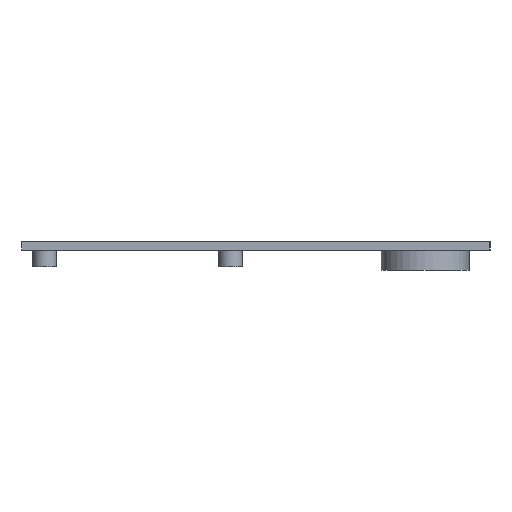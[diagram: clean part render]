
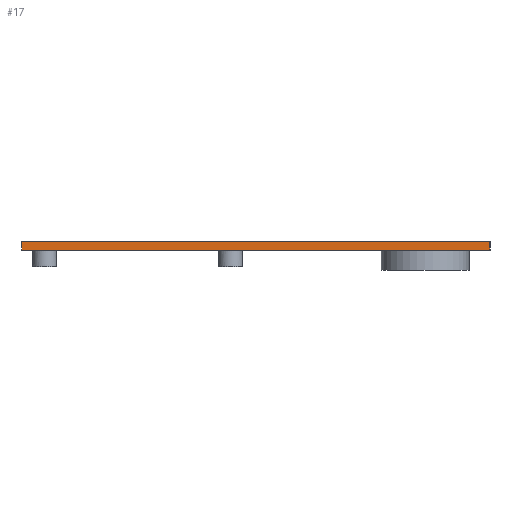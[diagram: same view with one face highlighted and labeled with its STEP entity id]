
A CAD part, left-side view. The second image highlights one B-rep face of the part: STEP entity #17.
In plain terms, the highlighted planar face has unit normal (-1, 0, 0).
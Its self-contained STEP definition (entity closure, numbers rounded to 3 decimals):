
#17 = ADVANCED_FACE('',(#18),#32,.F.);
#18 = FACE_BOUND('',#19,.F.);
#19 = EDGE_LOOP('',(#20,#55,#83,#111));
#20 = ORIENTED_EDGE('',*,*,#21,.F.);
#21 = EDGE_CURVE('',#22,#24,#26,.T.);
#22 = VERTEX_POINT('',#23);
#23 = CARTESIAN_POINT('',(0.8,0.8,67.5));
#24 = VERTEX_POINT('',#25);
#25 = CARTESIAN_POINT('',(0.8,0.8,70.));
#26 = SURFACE_CURVE('',#27,(#31,#43),.PCURVE_S1.);
#27 = LINE('',#28,#29);
#28 = CARTESIAN_POINT('',(0.8,0.8,67.5));
#29 = VECTOR('',#30,1.);
#30 = DIRECTION('',(0.,0.,1.));
#31 = PCURVE('',#32,#37);
#32 = PLANE('',#33);
#33 = AXIS2_PLACEMENT_3D('',#34,#35,#36);
#34 = CARTESIAN_POINT('',(0.8,0.8,67.5));
#35 = DIRECTION('',(1.,0.,-0.));
#36 = DIRECTION('',(0.,0.,1.));
#37 = DEFINITIONAL_REPRESENTATION('',(#38),#42);
#38 = LINE('',#39,#40);
#39 = CARTESIAN_POINT('',(0.,0.));
#40 = VECTOR('',#41,1.);
#41 = DIRECTION('',(1.,0.));
#42 = ( GEOMETRIC_REPRESENTATION_CONTEXT(2) 
PARAMETRIC_REPRESENTATION_CONTEXT() REPRESENTATION_CONTEXT('2D SPACE',''
  ) );
#43 = PCURVE('',#44,#49);
#44 = PLANE('',#45);
#45 = AXIS2_PLACEMENT_3D('',#46,#47,#48);
#46 = CARTESIAN_POINT('',(0.8,0.8,67.5));
#47 = DIRECTION('',(-0.,1.,0.));
#48 = DIRECTION('',(0.,0.,1.));
#49 = DEFINITIONAL_REPRESENTATION('',(#50),#54);
#50 = LINE('',#51,#52);
#51 = CARTESIAN_POINT('',(0.,0.));
#52 = VECTOR('',#53,1.);
#53 = DIRECTION('',(1.,0.));
#54 = ( GEOMETRIC_REPRESENTATION_CONTEXT(2) 
PARAMETRIC_REPRESENTATION_CONTEXT() REPRESENTATION_CONTEXT('2D SPACE',''
  ) );
#55 = ORIENTED_EDGE('',*,*,#56,.T.);
#56 = EDGE_CURVE('',#22,#57,#59,.T.);
#57 = VERTEX_POINT('',#58);
#58 = CARTESIAN_POINT('',(0.8,139.2,67.5));
#59 = SURFACE_CURVE('',#60,(#64,#71),.PCURVE_S1.);
#60 = LINE('',#61,#62);
#61 = CARTESIAN_POINT('',(0.8,0.8,67.5));
#62 = VECTOR('',#63,1.);
#63 = DIRECTION('',(-0.,1.,0.));
#64 = PCURVE('',#32,#65);
#65 = DEFINITIONAL_REPRESENTATION('',(#66),#70);
#66 = LINE('',#67,#68);
#67 = CARTESIAN_POINT('',(0.,0.));
#68 = VECTOR('',#69,1.);
#69 = DIRECTION('',(0.,-1.));
#70 = ( GEOMETRIC_REPRESENTATION_CONTEXT(2) 
PARAMETRIC_REPRESENTATION_CONTEXT() REPRESENTATION_CONTEXT('2D SPACE',''
  ) );
#71 = PCURVE('',#72,#77);
#72 = PLANE('',#73);
#73 = AXIS2_PLACEMENT_3D('',#74,#75,#76);
#74 = CARTESIAN_POINT('',(0.8,0.8,67.5));
#75 = DIRECTION('',(0.,0.,1.));
#76 = DIRECTION('',(1.,0.,-0.));
#77 = DEFINITIONAL_REPRESENTATION('',(#78),#82);
#78 = LINE('',#79,#80);
#79 = CARTESIAN_POINT('',(0.,0.));
#80 = VECTOR('',#81,1.);
#81 = DIRECTION('',(0.,1.));
#82 = ( GEOMETRIC_REPRESENTATION_CONTEXT(2) 
PARAMETRIC_REPRESENTATION_CONTEXT() REPRESENTATION_CONTEXT('2D SPACE',''
  ) );
#83 = ORIENTED_EDGE('',*,*,#84,.T.);
#84 = EDGE_CURVE('',#57,#85,#87,.T.);
#85 = VERTEX_POINT('',#86);
#86 = CARTESIAN_POINT('',(0.8,139.2,70.));
#87 = SURFACE_CURVE('',#88,(#92,#99),.PCURVE_S1.);
#88 = LINE('',#89,#90);
#89 = CARTESIAN_POINT('',(0.8,139.2,67.5));
#90 = VECTOR('',#91,1.);
#91 = DIRECTION('',(0.,0.,1.));
#92 = PCURVE('',#32,#93);
#93 = DEFINITIONAL_REPRESENTATION('',(#94),#98);
#94 = LINE('',#95,#96);
#95 = CARTESIAN_POINT('',(0.,-138.4));
#96 = VECTOR('',#97,1.);
#97 = DIRECTION('',(1.,0.));
#98 = ( GEOMETRIC_REPRESENTATION_CONTEXT(2) 
PARAMETRIC_REPRESENTATION_CONTEXT() REPRESENTATION_CONTEXT('2D SPACE',''
  ) );
#99 = PCURVE('',#100,#105);
#100 = PLANE('',#101);
#101 = AXIS2_PLACEMENT_3D('',#102,#103,#104);
#102 = CARTESIAN_POINT('',(0.8,139.2,67.5));
#103 = DIRECTION('',(-0.,1.,0.));
#104 = DIRECTION('',(0.,0.,1.));
#105 = DEFINITIONAL_REPRESENTATION('',(#106),#110);
#106 = LINE('',#107,#108);
#107 = CARTESIAN_POINT('',(0.,0.));
#108 = VECTOR('',#109,1.);
#109 = DIRECTION('',(1.,0.));
#110 = ( GEOMETRIC_REPRESENTATION_CONTEXT(2) 
PARAMETRIC_REPRESENTATION_CONTEXT() REPRESENTATION_CONTEXT('2D SPACE',''
  ) );
#111 = ORIENTED_EDGE('',*,*,#112,.F.);
#112 = EDGE_CURVE('',#24,#85,#113,.T.);
#113 = SURFACE_CURVE('',#114,(#118,#125),.PCURVE_S1.);
#114 = LINE('',#115,#116);
#115 = CARTESIAN_POINT('',(0.8,0.8,70.));
#116 = VECTOR('',#117,1.);
#117 = DIRECTION('',(-0.,1.,0.));
#118 = PCURVE('',#32,#119);
#119 = DEFINITIONAL_REPRESENTATION('',(#120),#124);
#120 = LINE('',#121,#122);
#121 = CARTESIAN_POINT('',(2.5,0.));
#122 = VECTOR('',#123,1.);
#123 = DIRECTION('',(0.,-1.));
#124 = ( GEOMETRIC_REPRESENTATION_CONTEXT(2) 
PARAMETRIC_REPRESENTATION_CONTEXT() REPRESENTATION_CONTEXT('2D SPACE',''
  ) );
#125 = PCURVE('',#126,#131);
#126 = PLANE('',#127);
#127 = AXIS2_PLACEMENT_3D('',#128,#129,#130);
#128 = CARTESIAN_POINT('',(0.8,0.8,70.));
#129 = DIRECTION('',(0.,0.,1.));
#130 = DIRECTION('',(1.,0.,-0.));
#131 = DEFINITIONAL_REPRESENTATION('',(#132),#136);
#132 = LINE('',#133,#134);
#133 = CARTESIAN_POINT('',(0.,0.));
#134 = VECTOR('',#135,1.);
#135 = DIRECTION('',(0.,1.));
#136 = ( GEOMETRIC_REPRESENTATION_CONTEXT(2) 
PARAMETRIC_REPRESENTATION_CONTEXT() REPRESENTATION_CONTEXT('2D SPACE',''
  ) );
